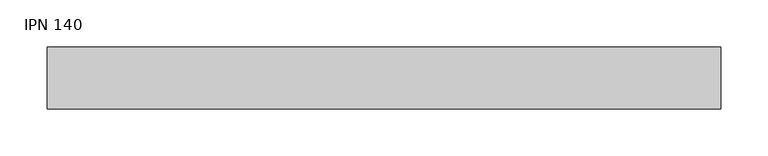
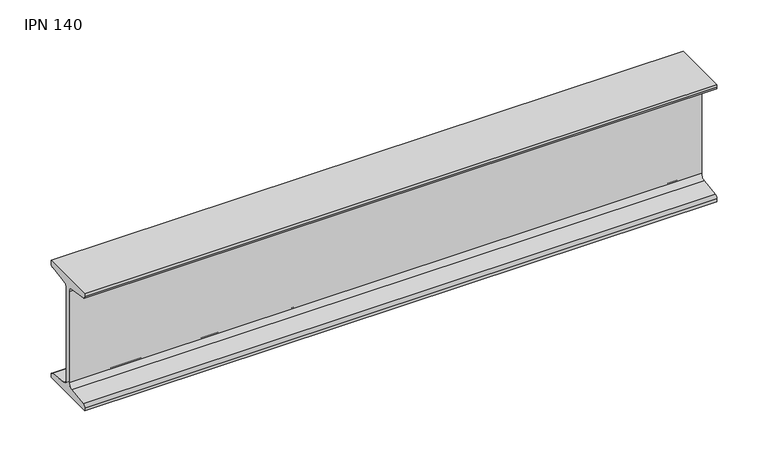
"""IFC4 building model written with IfcOpenShell, lengths in millimetres: beam geometry, IPN - Secciones en I con alas cónicas : IPN 140."""

from ifc_helpers import new_model, si_unit, point, frame, frame_2d, origin, place, context, project, spatial, polyline, circle_curve, trimmed, segment, composite_curve, outline, extrude, source, transform, mapped, element, save


def ipn_140_41878df7(model_context):
    return source(origin(), model_context, "Body", "SweptSolid", [
        extrude(outline(composite_curve([segment(polyline([(33.0, 70.0), (33.0, 66.6671583)]), True, "CONTINUOUS"), segment(trimmed(circle_curve(frame_2d((29.6, 66.6671583)), 3.4), [point((33.0, 66.6671583))], [point((30.0714027, 63.2999964))], False, "CARTESIAN"), True, "CONTINUOUS"), segment(polyline([(30.0714027, 63.2999964), (7.7597073, 60.176359)]), True, "CONTINUOUS"), segment(trimmed(circle_curve(frame_2d((8.55, 54.5314111)), 5.7), [point((7.7597073, 60.176359))], [point((2.85, 54.5314111))], True, "CARTESIAN"), True, "CONTINUOUS"), segment(polyline([(2.85, 54.5314111), (2.85, -54.5314111)]), True, "CONTINUOUS"), segment(trimmed(circle_curve(frame_2d((8.55, -54.5314111)), 5.7), [point((2.85, -54.5314111))], [point((7.7597073, -60.176359))], True, "CARTESIAN"), True, "CONTINUOUS"), segment(polyline([(7.7597073, -60.176359), (30.0714027, -63.2999964)]), True, "CONTINUOUS"), segment(trimmed(circle_curve(frame_2d((29.6, -66.6671583)), 3.4), [point((30.0714027, -63.2999964))], [point((33.0, -66.6671583))], False, "CARTESIAN"), True, "CONTINUOUS"), segment(polyline([(33.0, -66.6671583), (33.0, -70.0), (-33.0, -70.0), (-33.0, -66.6671583)]), True, "CONTINUOUS"), segment(trimmed(circle_curve(frame_2d((-29.6, -66.6671583)), 3.4), [point((-33.0, -66.6671583))], [point((-30.0714027, -63.2999964))], False, "CARTESIAN"), True, "CONTINUOUS"), segment(polyline([(-30.0714027, -63.2999964), (-7.7597073, -60.176359)]), True, "CONTINUOUS"), segment(trimmed(circle_curve(frame_2d((-8.55, -54.5314111)), 5.7), [point((-7.7597073, -60.176359))], [point((-2.85, -54.5314111))], True, "CARTESIAN"), True, "CONTINUOUS"), segment(polyline([(-2.85, -54.5314111), (-2.85, 54.5314111)]), True, "CONTINUOUS"), segment(trimmed(circle_curve(frame_2d((-8.55, 54.5314111)), 5.7), [point((-2.85, 54.5314111))], [point((-7.7597073, 60.176359))], True, "CARTESIAN"), True, "CONTINUOUS"), segment(polyline([(-7.7597073, 60.176359), (-30.0714027, 63.2999964)]), True, "CONTINUOUS"), segment(trimmed(circle_curve(frame_2d((-29.6, 66.6671583)), 3.4), [point((-30.0714027, 63.2999964))], [point((-33.0, 66.6671583))], False, "CARTESIAN"), True, "CONTINUOUS"), segment(polyline([(-33.0, 66.6671583), (-33.0, 70.0), (33.0, 70.0)]), True, "CONTINUOUS")], self_intersect=False)), frame((-350.0, 0.0, 0.0), z_axis=(1.0, 0.0, 0.0), x_axis=(0.0, 1.0, 0.0)), (0.0, 0.0, 1.0), 715.2273117),
    ])


if __name__ == "__main__":
    model = new_model("IFC4")
    model_context = context("Model", 3, world=origin())
    ifc_project = project(units=[si_unit("LENGTHUNIT", "METRE", prefix="MILLI")], contexts=[model_context])
    site = spatial("IfcSite", under=ifc_project)
    building = spatial("IfcBuilding", under=site)
    placement = place(None, origin())
    ipn_140_shape = ipn_140_41878df7(model_context)
    element("IfcBeam", 1, ObjectType="IPN - Secciones en I con alas cónicas : IPN 140", at=placement, inside=building, context=model_context, shape_type="MappedRepresentation", body=[
        mapped(ipn_140_shape, transform((0.0, 0.0, 0.0), x_axis=(1.0, 0.0, 0.0), y_axis=(0.0, 1.0, 0.0), z_axis=(0.0, 0.0, 1.0))),
    ])
    save(model, "model.ifc")
